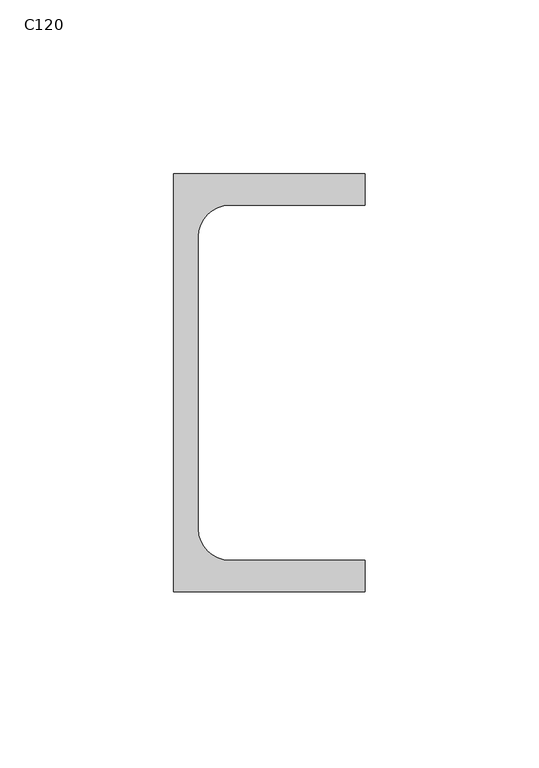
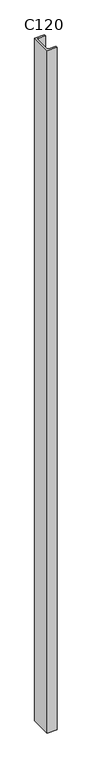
"""IFC4 building model written with IfcOpenShell, lengths in millimetres: column geometry, RPLN C - Ceowniki normalne_Column : C120."""

from ifc_helpers import new_model, si_unit, point, frame_2d, origin, origin_with_axes, place, context, project, spatial, polyline, circle_curve, trimmed, segment, composite_curve, outline, extrude, source, transform, mapped, element, save


def c120_7a4876d0(model_context):
    return source(origin(), model_context, "Body", "SweptSolid", [
        extrude(outline(composite_curve([segment(polyline([(-16.0, -60.0), (-16.0, 60.0), (39.0, 60.0), (39.0, 51.0), (0.0, 51.0)]), True, "CONTINUOUS"), segment(trimmed(circle_curve(frame_2d((0.0, 42.0)), 9.0), [point((0.0, 51.0))], [point((-9.0, 42.0))], True, "CARTESIAN"), True, "CONTINUOUS"), segment(polyline([(-9.0, 42.0), (-9.0, -42.0)]), True, "CONTINUOUS"), segment(trimmed(circle_curve(frame_2d((0.0, -42.0)), 9.0), [point((-9.0, -42.0))], [point((0.0, -51.0))], True, "CARTESIAN"), True, "CONTINUOUS"), segment(polyline([(0.0, -51.0), (39.0, -51.0), (39.0, -60.0), (-16.0, -60.0)]), True, "CONTINUOUS")], self_intersect=False)), origin_with_axes(), (0.0, 0.0, 1.0), 4020.0),
    ])


if __name__ == "__main__":
    model = new_model("IFC4")
    model_context = context("Model", 3, world=origin())
    ifc_project = project(units=[si_unit("LENGTHUNIT", "METRE", prefix="MILLI")], contexts=[model_context])
    site = spatial("IfcSite", under=ifc_project)
    building = spatial("IfcBuilding", under=site)
    placement = place(None, origin())
    c120_shape = c120_7a4876d0(model_context)
    element("IfcColumn", 1, ObjectType="RPLN C - Ceowniki normalne_Column : C120", at=placement, inside=building, context=model_context, shape_type="MappedRepresentation", body=[
        mapped(c120_shape, transform((0.0, 0.0, 0.0), x_axis=(1.0, 0.0, 0.0), y_axis=(0.0, 1.0, 0.0), z_axis=(0.0, 0.0, 1.0))),
    ])
    save(model, "model.ifc")
